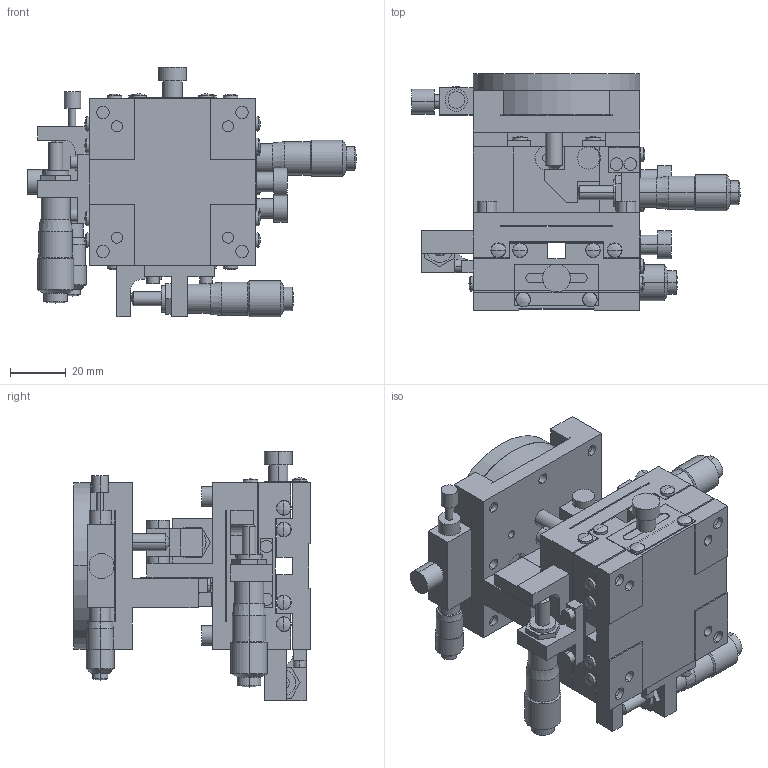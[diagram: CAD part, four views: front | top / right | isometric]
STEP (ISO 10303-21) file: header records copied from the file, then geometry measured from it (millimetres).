
FILE_DESCRIPTION (( 'STEP AP203' ), '1' );
FILE_NAME ('TR-6047-SR1.STEP', '2011-08-17T02:40:07', ( '' ), ( '' ), 'SwSTEP 2.0', 'SolidWorks 2011', '' );
FILE_SCHEMA (( 'CONFIG_CONTROL_DESIGN' ));
Length unit declared in the file: millimetre
Products named in the file (8): TR-6047-SR1; TR-6047-SR1-7; TR-6047-SR1-6; TR-6047-SR1-5; TR-6047-SR1-4; TR-6047-SR1-3; TR-6047-SR1-2; TR-6047-SR1-1
Assembly tree (7 placements, depth 2):
  TR-6047-SR1
    TR-6047-SR1-2
    TR-6047-SR1-5
    TR-6047-SR1-1
    TR-6047-SR1-3
    TR-6047-SR1-6
    TR-6047-SR1-4
    TR-6047-SR1-7
Bounding box: 118 x 85 x 89.8 mm (x, y, z)
Volume: 231727.2 mm3; surface area: 99379.4 mm2
Topology: 9 solids, 29 shells, 883 faces, 2134 edges, 1357 vertices
Faces by surface type: plane 392, cylinder 343, cone 90, sphere 40, bspline 10, torus 8
Entity records: 28759 total; most frequent: CARTESIAN_POINT 6449, DIRECTION 4764, ORIENTED_EDGE 4220, EDGE_CURVE 2110, AXIS2_PLACEMENT_3D 1800, VERTEX_POINT 1357, LINE 1164, VECTOR 1164
